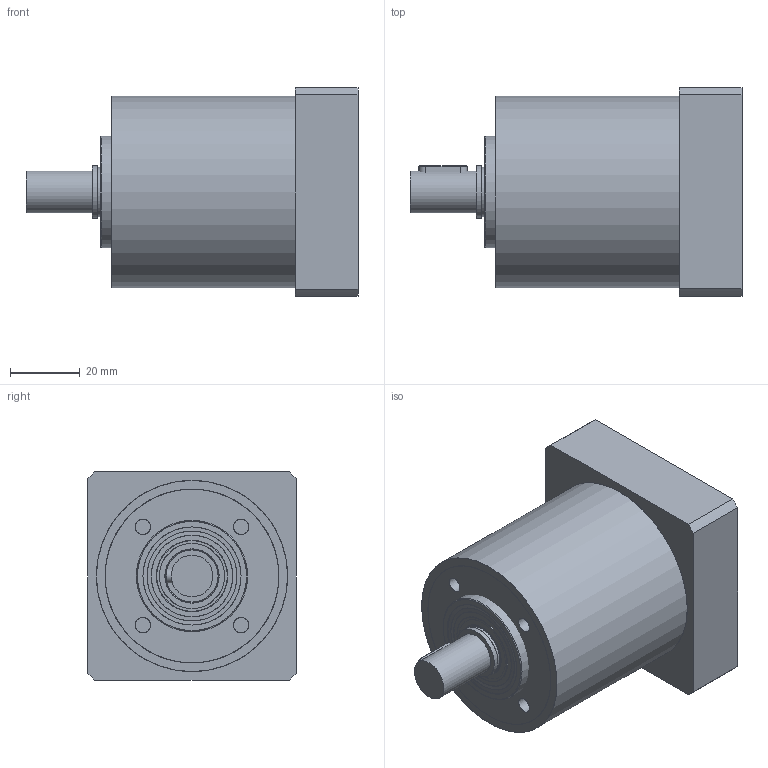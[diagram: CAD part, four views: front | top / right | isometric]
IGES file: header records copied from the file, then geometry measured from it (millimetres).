
Global section: file name: D:\ASSYCONF\WORK_DIRS\TEMP_#3\E00017964713MP040509075843_iges3D.igs; native system: NX V5.0; preprocessor: UGS NX IGES V5.0; date: 20090504.080022; units: millimetre
Bounding box: 95.5 x 60 x 60 mm (x, y, z)
Surface area: 57299.4 mm2 (no closed solid volume)
Topology: 0 solids, 0 shells, 140 faces, 2621 edges, 2541 vertices
Faces by surface type: revolution 90, extrusion 50
